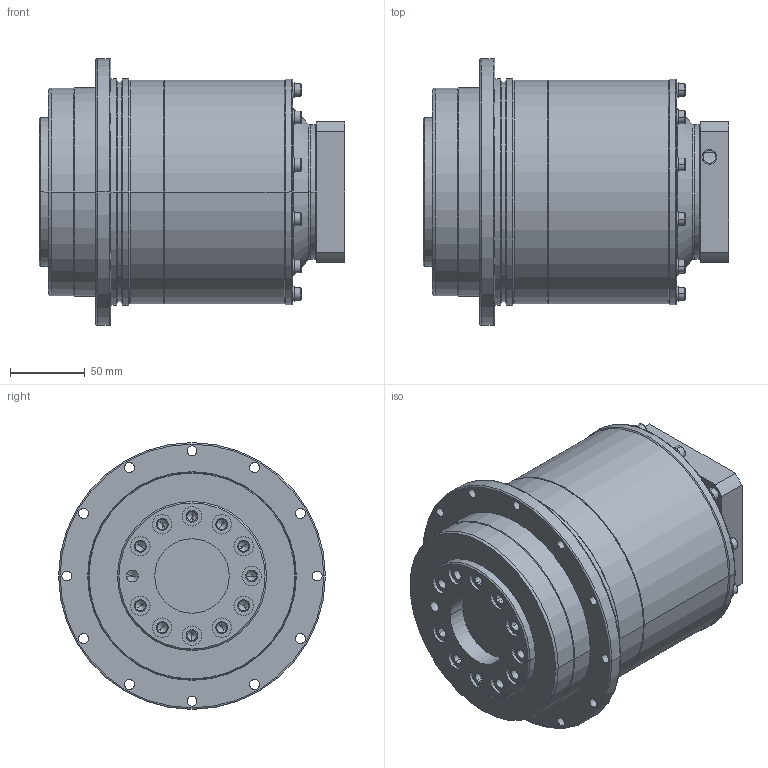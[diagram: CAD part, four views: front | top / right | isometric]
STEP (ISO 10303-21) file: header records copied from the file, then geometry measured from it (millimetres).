
FILE_DESCRIPTION((''),'2;1');
FILE_NAME('AD140B2-P0403402303_ASM','2023-09-06T',('Administrator'),(''),'PRO/ENGINEER BY PARAMETRIC TECHNOLOGY CORPORATION, 2015240','PRO/ENGINEER BY PARAMETRIC TECHNOLOGY CORPORATION, 2015240','');
FILE_SCHEMA(('CONFIG_CONTROL_DESIGN'));
Length unit declared in the file: millimetre
Products named in the file (6): P1304500001_D; AD140; AB-INPUTSHAFT-4; AD140B2_ASM; P0403402303-0003; AD140B2-P0403402303_ASM
Assembly tree (5 placements, depth 3):
  AD140B2-P0403402303_ASM
    AD140B2_ASM
      P1304500001_D
      AD140
      AB-INPUTSHAFT-4
    P0403402303-0003
Bounding box: 205 x 179 x 179 mm (x, y, z)
Volume: 2632608 mm3; surface area: 249010.7 mm2
Topology: 4 solids, 20 shells, 426 faces, 1015 edges, 631 vertices
Faces by surface type: cylinder 235, plane 99, cone 76, torus 16
Entity records: 12605 total; most frequent: DIRECTION 2501, CARTESIAN_POINT 2110, ORIENTED_EDGE 1898, AXIS2_PLACEMENT_3D 1079, EDGE_CURVE 981, CIRCLE 635, VERTEX_POINT 631, EDGE_LOOP 538
